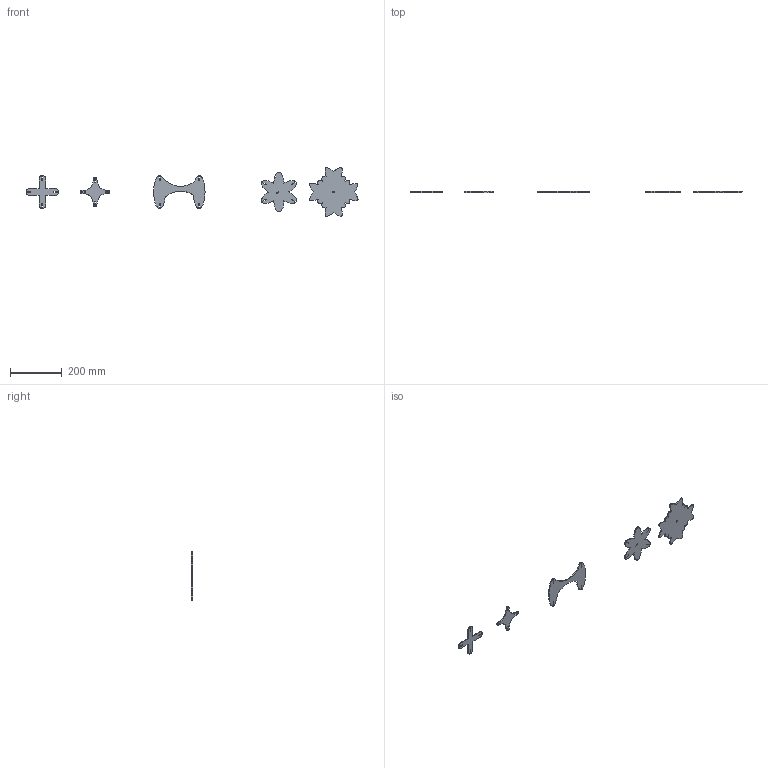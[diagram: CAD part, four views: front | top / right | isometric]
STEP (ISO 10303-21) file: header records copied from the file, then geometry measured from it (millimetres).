
FILE_DESCRIPTION(/* description */ ('','CAx-IF Rec.Pracs.---Representation and Presentation of Product Manufacturing Information (PMI)---4.0---2014-10-13'),/* implementation_level */ '2;1');
FILE_NAME(/* name */ 'parametric laser bits v2.step',/* time_stamp */ '2025-03-19T15:05:35-07:00',/* author */ (''),/* organization */ (''),/* preprocessor_version */ 'ST-DEVELOPER v20',/* originating_system */ 'Autodesk Translation Framework v13.20.0.188',/* authorisation */ '');
FILE_SCHEMA (('AP242_MANAGED_MODEL_BASED_3D_ENGINEERING_MIM_LF { 1 0 10303 442 1 1 4 }'));
Length unit declared in the file: inch
Products named in the file (1): parametric laser bits
Bounding box: 1279.4 x 3.91 x 186.73 mm (x, y, z)
Volume: 209762.4 mm3; surface area: 121382.2 mm2
Topology: 5 solids, 5 shells, 145 faces, 405 edges, 270 vertices
Faces by surface type: plane 82, bspline 46, cylinder 17
Full cylindrical faces by diameter (mm): 6.35 x1
Entity records: 5422 total; most frequent: CARTESIAN_POINT 1879, ORIENTED_EDGE 810, DIRECTION 643, EDGE_CURVE 405, LINE 279, VECTOR 279, VERTEX_POINT 270, AXIS2_PLACEMENT_3D 182
